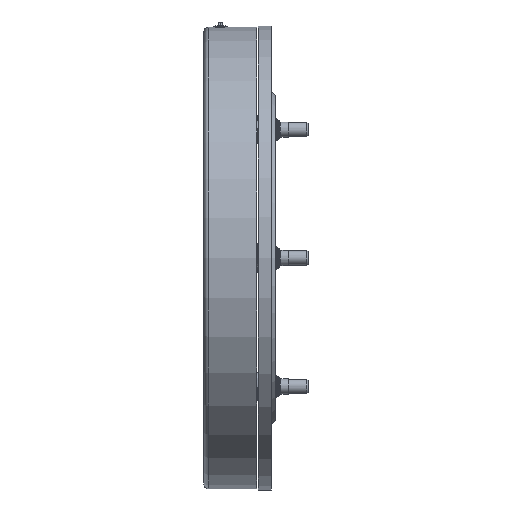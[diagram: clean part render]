
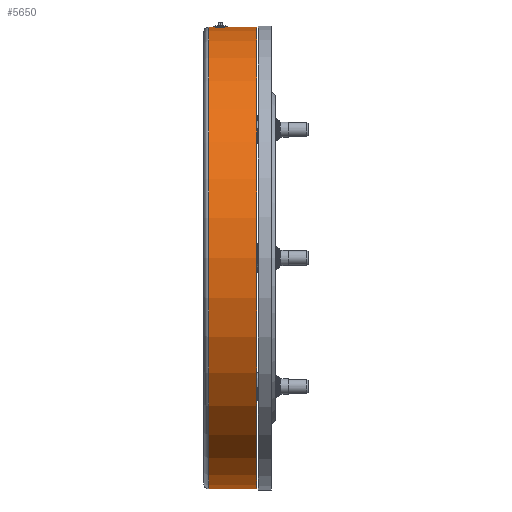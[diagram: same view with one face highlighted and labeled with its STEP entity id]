
A CAD part, top view. The second image highlights one B-rep face of the part: STEP entity #5650.
In plain terms, the highlighted cylindrical face has radius 194 mm (diameter 388 mm), a partial arc.
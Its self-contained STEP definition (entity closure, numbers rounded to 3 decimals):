
#400=FACE_OUTER_BOUND('',#702,.T.);
#702=EDGE_LOOP('',(#3806,#3807,#3808,#3809,#3810,#3811,#3812,#3813,#3814));
#1136=B_SPLINE_CURVE_WITH_KNOTS('',3,(#8534,#8535,#8536,#8537,#8538,#8539,
#8540,#8541,#8542,#8543,#8544,#8545,#8546,#8547,#8548,#8549,#8550,#8551,
#8552),.UNSPECIFIED.,.F.,.F.,(4,2,2,2,3,2,2,2,4),(2.034,2.204,
2.373,2.543,2.712,2.882,3.051,
3.221,3.39),.UNSPECIFIED.);
#1224=CIRCLE('',#5974,194.);
#1225=CIRCLE('',#5975,194.);
#1226=CIRCLE('',#5976,194.);
#1674=LINE('',#8520,#2004);
#1675=LINE('',#8526,#2005);
#1676=LINE('',#8530,#2006);
#1677=LINE('',#8532,#2007);
#1678=LINE('',#8553,#2008);
#2004=VECTOR('',#6714,194.);
#2005=VECTOR('',#6719,194.);
#2006=VECTOR('',#6722,194.);
#2007=VECTOR('',#6723,10.);
#2008=VECTOR('',#6724,10.);
#2334=VERTEX_POINT('',#8518);
#2335=VERTEX_POINT('',#8519);
#2336=VERTEX_POINT('',#8521);
#2337=VERTEX_POINT('',#8523);
#2338=VERTEX_POINT('',#8525);
#2339=VERTEX_POINT('',#8527);
#2340=VERTEX_POINT('',#8529);
#2341=VERTEX_POINT('',#8531);
#2342=VERTEX_POINT('',#8533);
#2938=EDGE_CURVE('',#2334,#2335,#1674,.T.);
#2939=EDGE_CURVE('',#2336,#2334,#1224,.T.);
#2940=EDGE_CURVE('',#2337,#2336,#1225,.T.);
#2941=EDGE_CURVE('',#2338,#2337,#1675,.T.);
#2942=EDGE_CURVE('',#2339,#2338,#1226,.T.);
#2943=EDGE_CURVE('',#2340,#2339,#1676,.T.);
#2944=EDGE_CURVE('',#2341,#2340,#1677,.T.);
#2945=EDGE_CURVE('',#2341,#2342,#1136,.T.);
#2946=EDGE_CURVE('',#2335,#2342,#1678,.T.);
#3806=ORIENTED_EDGE('',*,*,#2938,.F.);
#3807=ORIENTED_EDGE('',*,*,#2939,.F.);
#3808=ORIENTED_EDGE('',*,*,#2940,.F.);
#3809=ORIENTED_EDGE('',*,*,#2941,.F.);
#3810=ORIENTED_EDGE('',*,*,#2942,.F.);
#3811=ORIENTED_EDGE('',*,*,#2943,.F.);
#3812=ORIENTED_EDGE('',*,*,#2944,.F.);
#3813=ORIENTED_EDGE('',*,*,#2945,.T.);
#3814=ORIENTED_EDGE('',*,*,#2946,.F.);
#5542=CYLINDRICAL_SURFACE('',#5973,194.);
#5650=ADVANCED_FACE('',(#400),#5542,.T.);
#5973=AXIS2_PLACEMENT_3D('',#8517,#6712,#6713);
#5974=AXIS2_PLACEMENT_3D('',#8522,#6715,#6716);
#5975=AXIS2_PLACEMENT_3D('',#8524,#6717,#6718);
#5976=AXIS2_PLACEMENT_3D('',#8528,#6720,#6721);
#6712=DIRECTION('center_axis',(1.,0.,0.));
#6713=DIRECTION('ref_axis',(0.,-1.,0.));
#6714=DIRECTION('',(1.,0.,0.));
#6715=DIRECTION('center_axis',(-1.,0.,0.));
#6716=DIRECTION('ref_axis',(0.,-1.,0.));
#6717=DIRECTION('center_axis',(-1.,0.,0.));
#6718=DIRECTION('ref_axis',(0.,-1.,0.));
#6719=DIRECTION('',(-1.,0.,0.));
#6720=DIRECTION('center_axis',(1.,0.,0.));
#6721=DIRECTION('ref_axis',(0.,0.,-1.));
#6722=DIRECTION('',(1.,0.,0.));
#6723=DIRECTION('',(1.,0.,0.));
#6724=DIRECTION('',(1.,0.,0.));
#8517=CARTESIAN_POINT('Origin',(-9.751,-2.825,0.));
#8518=CARTESIAN_POINT('',(-28.001,191.175,0.));
#8519=CARTESIAN_POINT('',(-23.501,191.175,0.));
#8520=CARTESIAN_POINT('',(-9.751,191.175,0.));
#8521=CARTESIAN_POINT('',(-28.001,-2.825,194.));
#8522=CARTESIAN_POINT('Origin',(-28.001,-2.825,0.));
#8523=CARTESIAN_POINT('',(-28.001,-196.825,0.));
#8524=CARTESIAN_POINT('Origin',(-28.001,-2.825,0.));
#8525=CARTESIAN_POINT('',(12.499,-196.825,0.));
#8526=CARTESIAN_POINT('',(-9.751,-196.825,0.));
#8527=CARTESIAN_POINT('',(12.499,191.175,0.));
#8528=CARTESIAN_POINT('Origin',(12.499,-2.825,0.));
#8529=CARTESIAN_POINT('',(-12.501,191.175,0.));
#8530=CARTESIAN_POINT('',(-9.751,191.175,0.));
#8531=CARTESIAN_POINT('',(-13.501,191.175,0.));
#8532=CARTESIAN_POINT('',(-9.751,191.175,0.));
#8533=CARTESIAN_POINT('',(-22.501,191.175,0.));
#8534=CARTESIAN_POINT('Ctrl Pts',(-13.501,191.175,0.));
#8535=CARTESIAN_POINT('Ctrl Pts',(-13.501,191.175,0.565));
#8536=CARTESIAN_POINT('Ctrl Pts',(-13.614,191.172,1.168));
#8537=CARTESIAN_POINT('Ctrl Pts',(-14.074,191.162,2.276));
#8538=CARTESIAN_POINT('Ctrl Pts',(-14.42,191.155,2.782));
#8539=CARTESIAN_POINT('Ctrl Pts',(-15.219,191.142,3.582));
#8540=CARTESIAN_POINT('Ctrl Pts',(-15.725,191.135,3.928));
#8541=CARTESIAN_POINT('Ctrl Pts',(-16.834,191.125,4.387));
#8542=CARTESIAN_POINT('Ctrl Pts',(-17.436,191.123,4.5));
#8543=CARTESIAN_POINT('Ctrl Pts',(-18.001,191.123,4.5));
#8544=CARTESIAN_POINT('Ctrl Pts',(-18.566,191.123,4.5));
#8545=CARTESIAN_POINT('Ctrl Pts',(-19.169,191.125,4.387));
#8546=CARTESIAN_POINT('Ctrl Pts',(-20.278,191.135,3.928));
#8547=CARTESIAN_POINT('Ctrl Pts',(-20.784,191.142,3.582));
#8548=CARTESIAN_POINT('Ctrl Pts',(-21.583,191.155,2.782));
#8549=CARTESIAN_POINT('Ctrl Pts',(-21.929,191.162,2.276));
#8550=CARTESIAN_POINT('Ctrl Pts',(-22.388,191.172,1.168));
#8551=CARTESIAN_POINT('Ctrl Pts',(-22.501,191.175,0.565));
#8552=CARTESIAN_POINT('Ctrl Pts',(-22.501,191.175,0.));
#8553=CARTESIAN_POINT('',(-9.751,191.175,0.));
